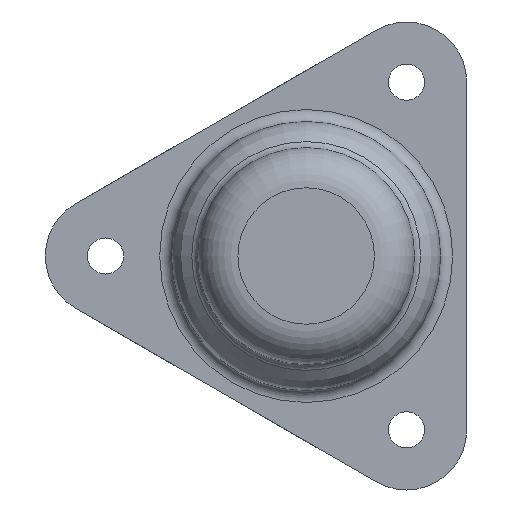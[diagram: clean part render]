
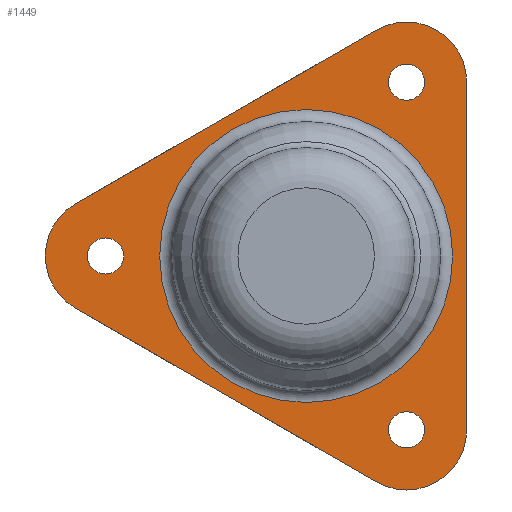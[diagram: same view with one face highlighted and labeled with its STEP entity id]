
A CAD part, left-side view. The second image highlights one B-rep face of the part: STEP entity #1449.
In plain terms, the highlighted planar face has unit normal (-1, 0, 0).
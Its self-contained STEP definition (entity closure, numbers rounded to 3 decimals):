
#26=FACE_BOUND('',#306,.T.);
#27=FACE_BOUND('',#307,.T.);
#28=FACE_BOUND('',#308,.T.);
#29=FACE_BOUND('',#309,.T.);
#50=PLANE('',#1688);
#209=FACE_OUTER_BOUND('',#305,.T.);
#305=EDGE_LOOP('',(#1332,#1333,#1334,#1335,#1336,#1337));
#306=EDGE_LOOP('',(#1338));
#307=EDGE_LOOP('',(#1339));
#308=EDGE_LOOP('',(#1340));
#309=EDGE_LOOP('',(#1341,#1342));
#340=LINE('',#2701,#393);
#344=LINE('',#2710,#397);
#363=LINE('',#2920,#416);
#393=VECTOR('',#1897,10.);
#397=VECTOR('',#1907,10.);
#416=VECTOR('',#2178,10.);
#480=CIRCLE('',#1561,15.);
#556=CIRCLE('',#1678,4.5);
#559=CIRCLE('',#1682,4.5);
#562=CIRCLE('',#1686,4.5);
#563=CIRCLE('',#1689,15.);
#564=CIRCLE('',#1690,15.);
#565=CIRCLE('',#1691,36.5);
#566=CIRCLE('',#1692,36.5);
#640=VERTEX_POINT('',#2698);
#641=VERTEX_POINT('',#2700);
#642=VERTEX_POINT('',#2704);
#643=VERTEX_POINT('',#2708);
#700=VERTEX_POINT('',#2897);
#703=VERTEX_POINT('',#2905);
#706=VERTEX_POINT('',#2913);
#707=VERTEX_POINT('',#2918);
#708=VERTEX_POINT('',#2919);
#709=VERTEX_POINT('',#2923);
#710=VERTEX_POINT('',#2924);
#815=EDGE_CURVE('',#640,#641,#340,.T.);
#818=EDGE_CURVE('',#642,#640,#480,.T.);
#820=EDGE_CURVE('',#643,#642,#344,.T.);
#912=EDGE_CURVE('',#700,#700,#556,.T.);
#916=EDGE_CURVE('',#703,#703,#559,.T.);
#920=EDGE_CURVE('',#706,#706,#562,.T.);
#921=EDGE_CURVE('',#707,#708,#363,.T.);
#922=EDGE_CURVE('',#641,#707,#563,.T.);
#923=EDGE_CURVE('',#708,#643,#564,.T.);
#924=EDGE_CURVE('',#709,#710,#565,.T.);
#925=EDGE_CURVE('',#710,#709,#566,.T.);
#1332=ORIENTED_EDGE('',*,*,#921,.F.);
#1333=ORIENTED_EDGE('',*,*,#922,.F.);
#1334=ORIENTED_EDGE('',*,*,#815,.F.);
#1335=ORIENTED_EDGE('',*,*,#818,.F.);
#1336=ORIENTED_EDGE('',*,*,#820,.F.);
#1337=ORIENTED_EDGE('',*,*,#923,.F.);
#1338=ORIENTED_EDGE('',*,*,#912,.T.);
#1339=ORIENTED_EDGE('',*,*,#916,.T.);
#1340=ORIENTED_EDGE('',*,*,#920,.T.);
#1341=ORIENTED_EDGE('',*,*,#924,.T.);
#1342=ORIENTED_EDGE('',*,*,#925,.T.);
#1449=ADVANCED_FACE('',(#209,#26,#27,#28,#29),#50,.F.);
#1561=AXIS2_PLACEMENT_3D('',#2706,#1902,#1903);
#1678=AXIS2_PLACEMENT_3D('',#2899,#2154,#2155);
#1682=AXIS2_PLACEMENT_3D('',#2907,#2163,#2164);
#1686=AXIS2_PLACEMENT_3D('',#2915,#2172,#2173);
#1688=AXIS2_PLACEMENT_3D('',#2917,#2176,#2177);
#1689=AXIS2_PLACEMENT_3D('',#2921,#2179,#2180);
#1690=AXIS2_PLACEMENT_3D('',#2922,#2181,#2182);
#1691=AXIS2_PLACEMENT_3D('',#2925,#2183,#2184);
#1692=AXIS2_PLACEMENT_3D('',#2926,#2185,#2186);
#1897=DIRECTION('',(0.,-0.866,0.5));
#1902=DIRECTION('center_axis',(1.,0.,0.));
#1903=DIRECTION('ref_axis',(0.,0.,-1.));
#1907=DIRECTION('',(0.,0.866,0.5));
#2154=DIRECTION('center_axis',(1.,0.,0.));
#2155=DIRECTION('ref_axis',(0.,0.,-1.));
#2163=DIRECTION('center_axis',(1.,0.,0.));
#2164=DIRECTION('ref_axis',(0.,0.,-1.));
#2172=DIRECTION('center_axis',(1.,0.,0.));
#2173=DIRECTION('ref_axis',(0.,0.,-1.));
#2176=DIRECTION('center_axis',(1.,0.,0.));
#2177=DIRECTION('ref_axis',(0.,0.,-1.));
#2178=DIRECTION('',(0.,0.,-1.));
#2179=DIRECTION('center_axis',(1.,0.,0.));
#2180=DIRECTION('ref_axis',(0.,0.,-1.));
#2181=DIRECTION('center_axis',(1.,0.,0.));
#2182=DIRECTION('ref_axis',(0.,0.,-1.));
#2183=DIRECTION('center_axis',(1.,0.,0.));
#2184=DIRECTION('ref_axis',(0.,0.,-1.));
#2185=DIRECTION('center_axis',(1.,0.,0.));
#2186=DIRECTION('ref_axis',(0.,0.,-1.));
#2698=CARTESIAN_POINT('',(103.,57.5,12.99));
#2700=CARTESIAN_POINT('',(103.,-17.5,56.292));
#2701=CARTESIAN_POINT('',(103.,57.5,12.99));
#2704=CARTESIAN_POINT('',(103.,57.5,-12.99));
#2706=CARTESIAN_POINT('Origin',(103.,50.,0.));
#2708=CARTESIAN_POINT('',(103.,-17.5,-56.292));
#2710=CARTESIAN_POINT('',(103.,-17.5,-56.292));
#2897=CARTESIAN_POINT('',(103.,-25.,-38.801));
#2899=CARTESIAN_POINT('Origin',(103.,-25.,-43.301));
#2905=CARTESIAN_POINT('',(103.,50.,4.5));
#2907=CARTESIAN_POINT('Origin',(103.,50.,0.));
#2913=CARTESIAN_POINT('',(103.,-25.,47.801));
#2915=CARTESIAN_POINT('Origin',(103.,-25.,43.301));
#2917=CARTESIAN_POINT('Origin',(103.,12.5,0.));
#2918=CARTESIAN_POINT('',(103.,-40.,43.301));
#2919=CARTESIAN_POINT('',(103.,-40.,-43.301));
#2920=CARTESIAN_POINT('',(103.,-40.,43.301));
#2921=CARTESIAN_POINT('Origin',(103.,-25.,43.301));
#2922=CARTESIAN_POINT('Origin',(103.,-25.,-43.301));
#2923=CARTESIAN_POINT('',(103.,0.,-36.5));
#2924=CARTESIAN_POINT('',(103.,0.,36.5));
#2925=CARTESIAN_POINT('Origin',(103.,0.,0.));
#2926=CARTESIAN_POINT('Origin',(103.,0.,0.));
